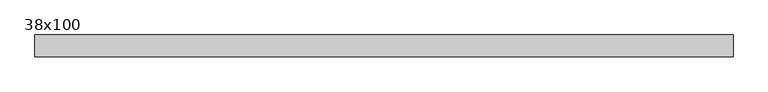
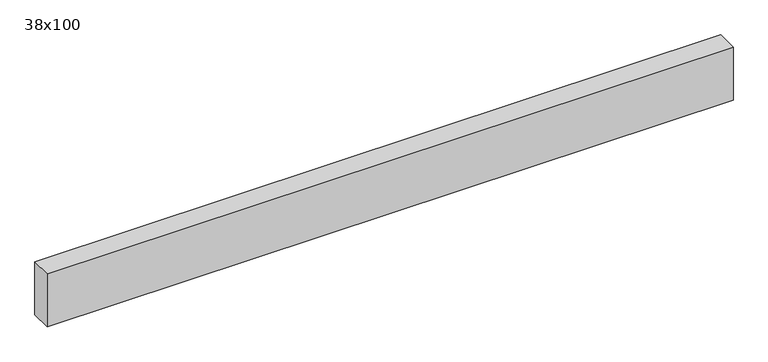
"""IFC4 building model written with IfcOpenShell, lengths in millimetres: beam geometry, Poutre - Bois de construction de dimensions courantes : 38x100."""

import ifcopenshell
import ifcopenshell.guid

model = None  # the IFC model being written
_history = None  # IfcOwnerHistory: only IFC2X3 demands one
_inside = {}  # id of a spatial element -> (the spatial element, [elements in it])
_under = {}  # id of a project, library or spatial element -> (it, [spatial elements below it])
_declared = {}  # id of a project -> (the project, [libraries it declares])
_typed = {}  # id of a type object -> (the type object, [elements of that type])
_made_of = {}  # id of a material, layer set ... -> (it, [elements and type objects made of it])


def new_model(schema):
    """Start an empty IFC model of exactly this schema.

    Asked for "IFC4X3", IfcOpenShell would pick the latest addendum, in which some entities
    have other attributes; the version numbers below select the first issue.
    IFC2X3 requires an IfcOwnerHistory on every rooted entity: one is made here for all.
    """
    global model, _history
    if schema == "IFC4X3":
        model = ifcopenshell.file(schema_version=(4, 3, 0, 0))
    else:
        model = ifcopenshell.file(schema=schema)
    _inside.clear()
    _under.clear()
    _declared.clear()
    _typed.clear()
    _made_of.clear()
    _history = None
    if model.schema == "IFC2X3":
        org = make("IfcOrganization", Name="unknown")
        user = make(
            "IfcPersonAndOrganization",
            ThePerson=make("IfcPerson", FamilyName="unknown"),
            TheOrganization=org,
        )
        app = make(
            "IfcApplication",
            ApplicationDeveloper=org,
            Version="unknown",
            ApplicationFullName="unknown",
            ApplicationIdentifier="unknown",
        )
        _history = make(
            "IfcOwnerHistory",
            OwningUser=user,
            OwningApplication=app,
            ChangeAction="ADDED",
            CreationDate=0,
        )
    return model


def make(cls, **values):
    """One entity of the class cls with the attributes given. An attribute that is None is left unset."""
    return model.create_entity(
        cls, **{name: value for name, value in values.items() if value is not None}
    )


def rooted(cls, **values):
    """An entity with a GlobalId (a new one), such as an element, a storey or a relation."""
    return make(cls, GlobalId=ifcopenshell.guid.new(), OwnerHistory=_history, **values)


def si_unit(unit_type, name, prefix=None):
    """IfcSIUnit, for example si_unit("LENGTHUNIT", "METRE", prefix="MILLI")."""
    return make("IfcSIUnit", UnitType=unit_type, Prefix=prefix, Name=name)


def assignment(units):
    """IfcUnitAssignment: the units of a project."""
    return None if units is None else make("IfcUnitAssignment", Units=units)


def point(xyz):
    """IfcCartesianPoint."""
    return None if xyz is None else make("IfcCartesianPoint", Coordinates=xyz)


def direction(xyz):
    """IfcDirection."""
    return None if xyz is None else make("IfcDirection", DirectionRatios=xyz)


def frame(location, z_axis=None, x_axis=None):
    """IfcAxis2Placement3D, a coordinate frame: its origin and axes. An axis left out is left unset."""
    return make(
        "IfcAxis2Placement3D",
        Location=point(location),
        Axis=direction(z_axis),
        RefDirection=direction(x_axis),
    )


def origin():
    """The frame at (0, 0, 0) with its axes left unset."""
    return frame((0.0, 0.0, 0.0))


def place(relative_to, where):
    """IfcLocalPlacement: puts the frame where relative to a parent placement (None: the world)."""
    return make(
        "IfcLocalPlacement", PlacementRelTo=relative_to, RelativePlacement=where
    )


def context(
    kind, dimensions, precision=None, world=None, true_north=None, identifier=None
):
    """IfcGeometricRepresentationContext, for example the 3D "Model" context."""
    return make(
        "IfcGeometricRepresentationContext",
        ContextIdentifier=identifier,
        ContextType=kind,
        CoordinateSpaceDimension=dimensions,
        Precision=precision,
        WorldCoordinateSystem=world,
        TrueNorth=true_north,
    )


def project(units=None, contexts=None):
    """IfcProject with its units and contexts."""
    return rooted(
        "IfcProject",
        Name="project",
        RepresentationContexts=contexts,
        UnitsInContext=assignment(units),
    )


def spatial(cls, under=None, at=None, **own):
    """A site, building, storey or space (cls), placed at a placement, below another one or the project."""
    s = rooted(cls, ObjectPlacement=at, **own)
    if under is not None:
        _under.setdefault(under.id(), (under, []))[1].append(s)
    return s


def polyline(points):
    """IfcPolyline through the points."""
    return make("IfcPolyline", Points=[point(p) for p in points])


def outline(outer, holes=None, kind="AREA"):
    """IfcArbitraryClosedProfileDef: a profile drawn as a closed curve; with holes, ...WithVoids."""
    if holes is None:
        return make("IfcArbitraryClosedProfileDef", ProfileType=kind, OuterCurve=outer)
    return make(
        "IfcArbitraryProfileDefWithVoids",
        ProfileType=kind,
        OuterCurve=outer,
        InnerCurves=holes,
    )


def extrude(swept, where, along, depth):
    """IfcExtrudedAreaSolid: the profile swept, set in the frame where, extruded along a direction by depth."""
    return make(
        "IfcExtrudedAreaSolid",
        SweptArea=swept,
        Position=where,
        ExtrudedDirection=direction(along),
        Depth=depth,
    )


def shape(context_of_items, identifier, shape_type, items):
    """IfcShapeRepresentation: the items that make up one representation, for example the "Body"."""
    return make(
        "IfcShapeRepresentation",
        ContextOfItems=context_of_items,
        RepresentationIdentifier=identifier,
        RepresentationType=shape_type,
        Items=items,
    )


def source(mapping_origin, context_of_items, identifier, shape_type, items):
    """IfcRepresentationMap: a shape defined once, which mapped items show again and again."""
    return make(
        "IfcRepresentationMap",
        MappingOrigin=mapping_origin,
        MappedRepresentation=shape(context_of_items, identifier, shape_type, items),
    )


def transform(
    local_origin,
    x_axis=None,
    y_axis=None,
    z_axis=None,
    scale=None,
    scale2=None,
    scale3=None,
    uniform=True,
):
    """IfcCartesianTransformationOperator3D, or its non-uniform kind. x_axis, y_axis, z_axis: its Axis1, 2, 3."""
    if uniform:
        return make(
            "IfcCartesianTransformationOperator3D",
            Axis1=direction(x_axis),
            Axis2=direction(y_axis),
            LocalOrigin=point(local_origin),
            Scale=scale,
            Axis3=direction(z_axis),
        )
    return make(
        "IfcCartesianTransformationOperator3DnonUniform",
        Axis1=direction(x_axis),
        Axis2=direction(y_axis),
        LocalOrigin=point(local_origin),
        Scale=scale,
        Axis3=direction(z_axis),
        Scale2=scale2,
        Scale3=scale3,
    )


def mapped(mapping_source, mapping_target):
    """IfcMappedItem: shows the shape of a source again, moved by a transform."""
    return make(
        "IfcMappedItem", MappingSource=mapping_source, MappingTarget=mapping_target
    )


def made_of(thing, what):
    """Note that an element or type object is made of a material, layer set ...; save() writes the relation."""
    if what is not None:
        _made_of.setdefault(what.id(), (what, []))[1].append(thing)
    return thing


def element(
    cls,
    number,
    at=None,
    inside=None,
    cuts=None,
    type_object=None,
    material=None,
    context=None,
    identifier="Body",
    shape_type=None,
    held_by="IfcProductDefinitionShape",
    body=None,
    shapes=None,
    **own,
):
    """One element of the class cls, such as IfcWall. Its Tag is "e" and its number.

    at: its placement. inside: the storey or other place that contains it. cuts: it is an
    opening in that element (IfcRelVoidsElement). A single representation is given by context,
    identifier, shape_type and body (its items); several are given by shapes. held_by: the class
    of the entity that holds the representations. save() writes the other relations.
    """
    e = rooted(cls, Tag="e%d" % number, ObjectPlacement=at, **own)
    if body is not None:
        shapes = [shape(context, identifier, shape_type, body)]
    if shapes is not None:
        e.Representation = make(held_by, Representations=shapes)
    if inside is not None:
        _inside.setdefault(inside.id(), (inside, []))[1].append(e)
    if cuts is not None:
        rooted(
            "IfcRelVoidsElement", RelatingBuildingElement=cuts, RelatedOpeningElement=e
        )
    if type_object is not None:
        _typed.setdefault(type_object.id(), (type_object, []))[1].append(e)
    return made_of(e, material)


def aggregate(whole, parts):
    """IfcRelAggregates: a whole, such as a stair, and the parts it consists of."""
    return rooted("IfcRelAggregates", RelatingObject=whole, RelatedObjects=parts)


def save(model, path):
    """Write the relations noted so far, then the file.

    IfcRelAggregates (storeys below a building ...), IfcRelContainedInSpatialStructure (elements
    in a storey), IfcRelDefinesByType, IfcRelAssociatesMaterial and IfcRelDeclares: one each for
    every whole, place, type object, material and project.
    """
    for whole, parts in _under.values():
        aggregate(whole, parts)
    for where, things in _inside.values():
        rooted(
            "IfcRelContainedInSpatialStructure",
            RelatedElements=things,
            RelatingStructure=where,
        )
    for kind, things in _typed.values():
        rooted("IfcRelDefinesByType", RelatedObjects=things, RelatingType=kind)
    for what, things in _made_of.values():
        rooted("IfcRelAssociatesMaterial", RelatedObjects=things, RelatingMaterial=what)
    for by, libraries in _declared.values():
        rooted("IfcRelDeclares", RelatingContext=by, RelatedDefinitions=libraries)
    model.write(path)


def beam_38x100_ea9299f9(model_context):
    return source(origin(), model_context, "Body", "SweptSolid", [
        extrude(outline(polyline([(603.5, 19.05), (603.5, -19.05), (-616.5, -19.05), (-616.5, 19.05), (603.5, 19.05)])), frame((0.0, 0.0, -50.0), z_axis=(0.0, 0.0, 1.0), x_axis=(1.0, 0.0, 0.0)), (0.0, 0.0, 1.0), 100.0),
    ])


if __name__ == "__main__":
    model = new_model("IFC4")
    model_context = context("Model", 3, world=origin())
    ifc_project = project(units=[si_unit("LENGTHUNIT", "METRE", prefix="MILLI")], contexts=[model_context])
    site = spatial("IfcSite", under=ifc_project)
    building = spatial("IfcBuilding", under=site)
    placement = place(None, origin())
    beam_38x100_shape = beam_38x100_ea9299f9(model_context)
    element("IfcBeam", 1, ObjectType="Poutre - Bois de construction de dimensions courantes : 38x100", at=placement, inside=building, context=model_context, shape_type="MappedRepresentation", body=[
        mapped(beam_38x100_shape, transform((0.0, 0.0, 0.0), x_axis=(1.0, 0.0, 0.0), y_axis=(0.0, 1.0, 0.0), z_axis=(0.0, 0.0, 1.0))),
    ])
    save(model, "model.ifc")
